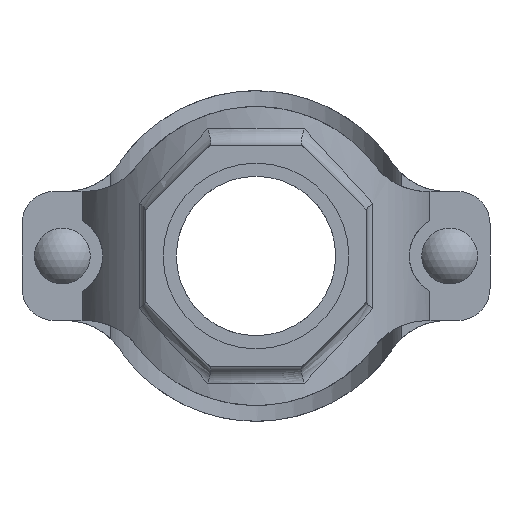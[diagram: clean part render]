
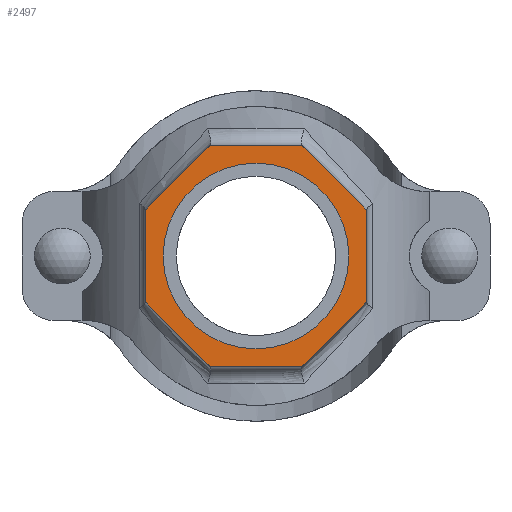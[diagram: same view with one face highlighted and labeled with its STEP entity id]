
A CAD part, front view. The second image highlights one B-rep face of the part: STEP entity #2497.
In plain terms, the highlighted planar face has unit normal (0, -1, 0) as drawn and (0, 1, 0) by its records, which use the part's own axes.
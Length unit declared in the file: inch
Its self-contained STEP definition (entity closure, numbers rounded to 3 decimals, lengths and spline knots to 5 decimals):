
#182=FACE_BOUND('',#449,.T.);
#299=FACE_OUTER_BOUND('',#448,.T.);
#448=EDGE_LOOP('',(#2092,#2093,#2094,#2095,#2096,#2097,#2098,#2099));
#449=EDGE_LOOP('',(#2100));
#584=LINE('',#4707,#768);
#587=LINE('',#4712,#771);
#589=LINE('',#4716,#773);
#591=LINE('',#4720,#775);
#627=LINE('',#5193,#811);
#629=LINE('',#5197,#813);
#631=LINE('',#5201,#815);
#633=LINE('',#5204,#817);
#768=VECTOR('',#3224,0.3937);
#771=VECTOR('',#3229,0.3937);
#773=VECTOR('',#3233,0.3937);
#775=VECTOR('',#3237,0.3937);
#811=VECTOR('',#3365,0.3937);
#813=VECTOR('',#3369,0.3937);
#815=VECTOR('',#3373,0.3937);
#817=VECTOR('',#3377,0.3937);
#905=CIRCLE('',#2758,1.4375);
#1079=VERTEX_POINT('',#4704);
#1080=VERTEX_POINT('',#4706);
#1081=VERTEX_POINT('',#4710);
#1082=VERTEX_POINT('',#4714);
#1083=VERTEX_POINT('',#4718);
#1118=VERTEX_POINT('',#5022);
#1140=VERTEX_POINT('',#5192);
#1141=VERTEX_POINT('',#5196);
#1142=VERTEX_POINT('',#5200);
#1384=EDGE_CURVE('',#1080,#1079,#584,.T.);
#1387=EDGE_CURVE('',#1079,#1081,#587,.T.);
#1389=EDGE_CURVE('',#1081,#1082,#589,.T.);
#1391=EDGE_CURVE('',#1082,#1083,#591,.T.);
#1437=EDGE_CURVE('',#1118,#1118,#905,.T.);
#1467=EDGE_CURVE('',#1140,#1080,#627,.T.);
#1469=EDGE_CURVE('',#1141,#1140,#629,.T.);
#1471=EDGE_CURVE('',#1142,#1141,#631,.T.);
#1473=EDGE_CURVE('',#1083,#1142,#633,.T.);
#2092=ORIENTED_EDGE('',*,*,#1473,.T.);
#2093=ORIENTED_EDGE('',*,*,#1471,.T.);
#2094=ORIENTED_EDGE('',*,*,#1469,.T.);
#2095=ORIENTED_EDGE('',*,*,#1467,.T.);
#2096=ORIENTED_EDGE('',*,*,#1384,.T.);
#2097=ORIENTED_EDGE('',*,*,#1387,.T.);
#2098=ORIENTED_EDGE('',*,*,#1389,.T.);
#2099=ORIENTED_EDGE('',*,*,#1391,.T.);
#2100=ORIENTED_EDGE('',*,*,#1437,.T.);
#2242=PLANE('',#2779);
#2497=ADVANCED_FACE('',(#299,#182),#2242,.T.);
#2758=AXIS2_PLACEMENT_3D('',#5023,#3315,#3316);
#2779=AXIS2_PLACEMENT_3D('',#5205,#3378,#3379);
#3224=DIRECTION('',(0.,0.,1.));
#3229=DIRECTION('',(0.707,0.,0.707));
#3233=DIRECTION('',(1.,0.,0.));
#3237=DIRECTION('',(0.707,0.,-0.707));
#3315=DIRECTION('center_axis',(0.,-1.,0.));
#3316=DIRECTION('ref_axis',(-1.,0.,0.));
#3365=DIRECTION('',(-0.707,0.,0.707));
#3369=DIRECTION('',(-1.,0.,0.));
#3373=DIRECTION('',(-0.707,0.,-0.707));
#3377=DIRECTION('',(0.,0.,-1.));
#3378=DIRECTION('center_axis',(0.,1.,0.));
#3379=DIRECTION('ref_axis',(0.,0.,1.));
#4704=CARTESIAN_POINT('',(-1.71875,4.,0.71193));
#4706=CARTESIAN_POINT('',(-1.71875,4.,-0.71193));
#4707=CARTESIAN_POINT('',(-1.71875,4.,0.71193));
#4710=CARTESIAN_POINT('',(-0.71193,4.,1.71875));
#4712=CARTESIAN_POINT('',(-0.71193,4.,1.71875));
#4714=CARTESIAN_POINT('',(0.71193,4.,1.71875));
#4716=CARTESIAN_POINT('',(0.71193,4.,1.71875));
#4718=CARTESIAN_POINT('',(1.71875,4.,0.71193));
#4720=CARTESIAN_POINT('',(1.71875,4.,0.71193));
#5022=CARTESIAN_POINT('',(1.4375,4.,0.));
#5023=CARTESIAN_POINT('Origin',(0.,4.,0.));
#5192=CARTESIAN_POINT('',(-0.71193,4.,-1.71875));
#5193=CARTESIAN_POINT('',(-1.71875,4.,-0.71193));
#5196=CARTESIAN_POINT('',(0.71193,4.,-1.71875));
#5197=CARTESIAN_POINT('',(-0.71193,4.,-1.71875));
#5200=CARTESIAN_POINT('',(1.71875,4.,-0.71193));
#5201=CARTESIAN_POINT('',(0.71193,4.,-1.71875));
#5204=CARTESIAN_POINT('',(1.71875,4.,-0.71193));
#5205=CARTESIAN_POINT('Origin',(0.,4.,0.));
